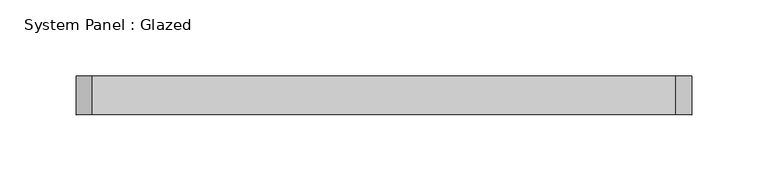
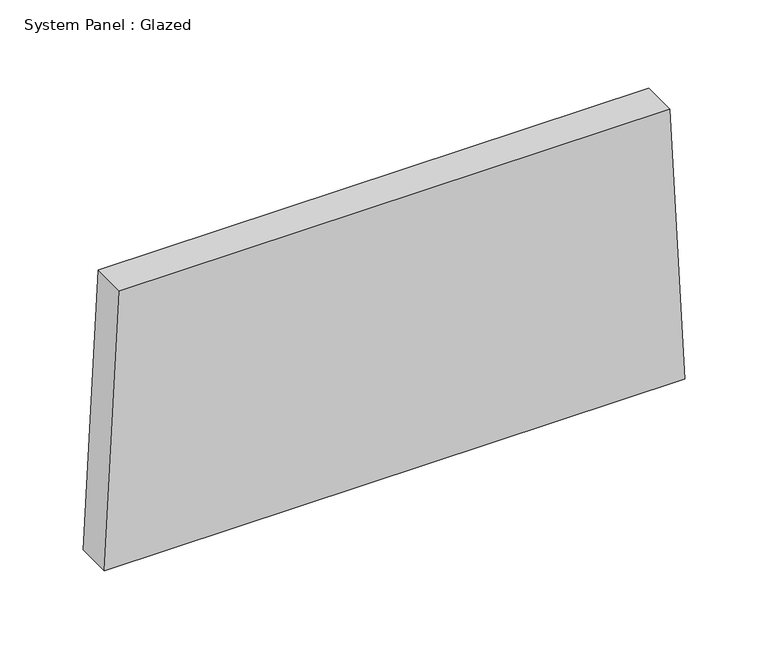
"""IFC4 building model written with IfcOpenShell, lengths in millimetres: plate geometry, System Panel : Glazed."""

from ifc_helpers import new_model, si_unit, frame, origin, place, context, project, spatial, polyline, outline, extrude, source, transform, mapped, element, save


def system_panel_glazed_a665e57d(model_context):
    return source(origin(), model_context, "Body", "SweptSolid", [
        extrude(outline(polyline([(0.0, -201.8340871), (0.0, 201.8340871), (202.0797716, 191.3127145), (202.0797716, -191.3127145), (0.0, -201.8340871)])), frame((0.0, -44.45, 0.0), z_axis=(0.0, 1.0, 0.0), x_axis=(0.0, 0.0, 1.0)), (0.0, 0.0, 1.0), 25.4),
    ])


if __name__ == "__main__":
    model = new_model("IFC4")
    model_context = context("Model", 3, world=origin())
    ifc_project = project(units=[si_unit("LENGTHUNIT", "METRE", prefix="MILLI")], contexts=[model_context])
    site = spatial("IfcSite", under=ifc_project)
    building = spatial("IfcBuilding", under=site)
    placement = place(None, origin())
    system_panel_glazed_shape = system_panel_glazed_a665e57d(model_context)
    element("IfcPlate", 1, ObjectType="System Panel : Glazed", at=placement, inside=building, context=model_context, shape_type="MappedRepresentation", body=[
        mapped(system_panel_glazed_shape, transform((0.0, 0.0, 0.0), x_axis=(1.0, 0.0, 0.0), y_axis=(0.0, 1.0, 0.0), z_axis=(0.0, 0.0, 1.0))),
    ])
    save(model, "model.ifc")
